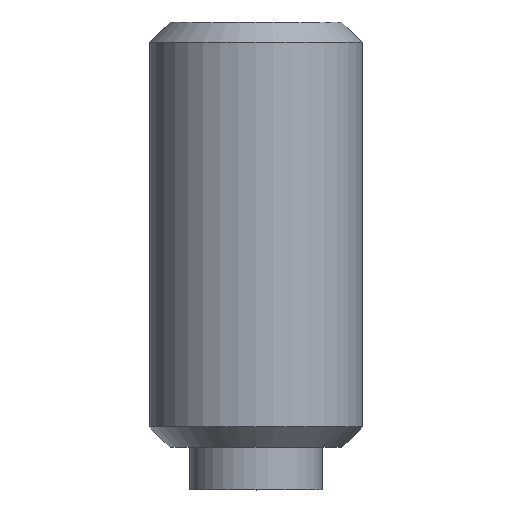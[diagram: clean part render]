
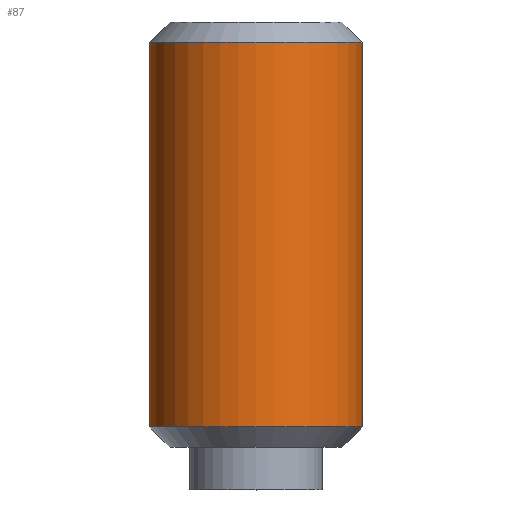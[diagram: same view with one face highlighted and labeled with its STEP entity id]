
A CAD part, top view. The second image highlights one B-rep face of the part: STEP entity #87.
In plain terms, the highlighted cylindrical face has radius 4 mm (diameter 8 mm), a full revolution.
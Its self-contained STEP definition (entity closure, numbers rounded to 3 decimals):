
#87 = ADVANCED_FACE( '', ( #118, #119 ), #120, .T. );
#118 = FACE_OUTER_BOUND( '', #152, .T. );
#119 = FACE_OUTER_BOUND( '', #153, .T. );
#120 = CYLINDRICAL_SURFACE( '', #154, 4. );
#152 = EDGE_LOOP( '', ( #238 ) );
#153 = EDGE_LOOP( '', ( #239 ) );
#154 = AXIS2_PLACEMENT_3D( '', #240, #241, #242 );
#238 = ORIENTED_EDGE( '', *, *, #270, .F. );
#239 = ORIENTED_EDGE( '', *, *, #271, .T. );
#240 = CARTESIAN_POINT( '', ( 0., 0., 0. ) );
#241 = DIRECTION( '', ( 0., 1., 0. ) );
#242 = DIRECTION( '', ( 0., 0., -1. ) );
#270 = EDGE_CURVE( '', #310, #310, #311, .T. );
#271 = EDGE_CURVE( '', #312, #312, #313, .T. );
#310 = VERTEX_POINT( '', #370 );
#311 = CIRCLE( '', #371, 4. );
#312 = VERTEX_POINT( '', #372 );
#313 = CIRCLE( '', #373, 4. );
#370 = CARTESIAN_POINT( '', ( 0., 2.367, -4. ) );
#371 = AXIS2_PLACEMENT_3D( '', #404, #405, #406 );
#372 = CARTESIAN_POINT( '', ( 0., 16.833, -4. ) );
#373 = AXIS2_PLACEMENT_3D( '', #407, #408, #409 );
#404 = CARTESIAN_POINT( '', ( 0., 2.367, 0. ) );
#405 = DIRECTION( '', ( 0., -1., 0. ) );
#406 = DIRECTION( '', ( 0., 0., -1. ) );
#407 = CARTESIAN_POINT( '', ( 0., 16.833, 0. ) );
#408 = DIRECTION( '', ( 0., -1., 0. ) );
#409 = DIRECTION( '', ( 0., 0., -1. ) );
